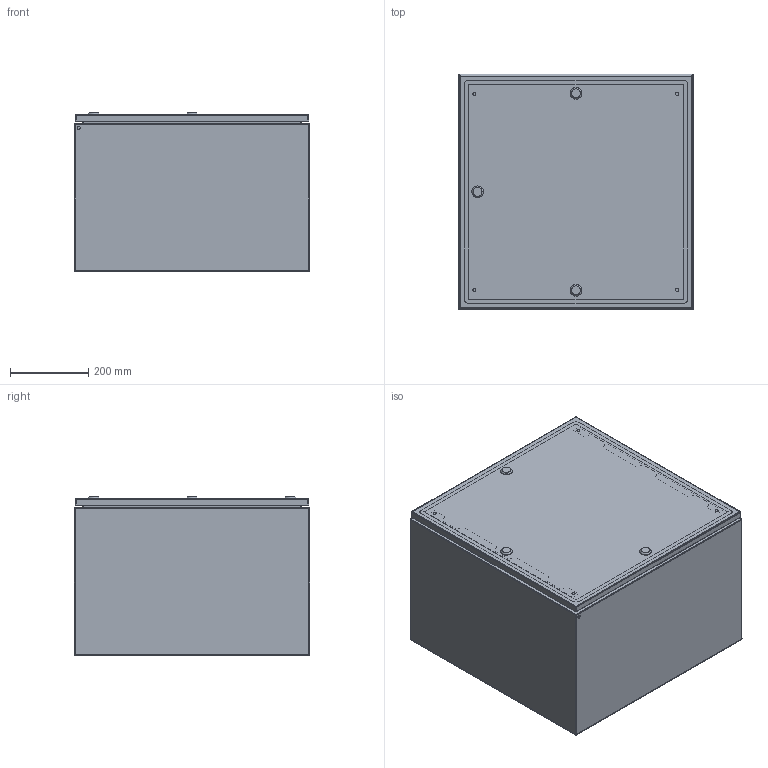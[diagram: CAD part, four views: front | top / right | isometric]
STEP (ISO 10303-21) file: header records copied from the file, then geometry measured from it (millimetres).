
FILE_DESCRIPTION (( 'STEP AP203' ), '1' );
FILE_NAME ('EC060640EE.STEP', '2023-08-31T11:54:48', ( '' ), ( '' ), 'SwSTEP 2.0', 'SolidWorks 2022', '' );
FILE_SCHEMA (( 'CONFIG_CONTROL_DESIGN' ));
Length unit declared in the file: millimetre
Products named in the file (7): AR_EC_EE_involucro_0600x0600x0400; AR_EC_EE_chiusura_std_STD; AR_ECOR_X_Piastra_16; AR_EC_EE_porta_singola_0600x0600; EC060640EE; AR_EC_EE_montaggio_porta_singola_0600x0600; AR_ECOR_X_rinforzo porta_05
Assembly tree (9 placements, depth 3):
  EC060640EE
    AR_EC_EE_involucro_0600x0600x0400
    AR_ECOR_X_Piastra_16
    AR_EC_EE_montaggio_porta_singola_0600x0600
      AR_EC_EE_porta_singola_0600x0600
      AR_EC_EE_chiusura_std_STD  x3
      AR_ECOR_X_rinforzo porta_05  x2
Bounding box: 600 x 600 x 405 mm (x, y, z)
Volume: 3477532.8 mm3; surface area: 4194354.4 mm2
Topology: 8 solids, 8 shells, 448 faces, 1084 edges, 661 vertices
Faces by surface type: plane 221, cylinder 188, sphere 20, cone 8, torus 7, bspline 4
Full cylindrical faces by diameter (mm): 4.5 x36, 5.5 x2, 6 x5, 7 x4, 8 x9, 8.2 x5, 9.5 x4, 10 x8, 14 x4, 30 x3
Entity records: 10743 total; most frequent: CARTESIAN_POINT 2031, DIRECTION 1703, ORIENTED_EDGE 1450, EDGE_CURVE 725, AXIS2_PLACEMENT_3D 648, EDGE_LOOP 538, VERTEX_POINT 489, FACE_OUTER_BOUND 415
